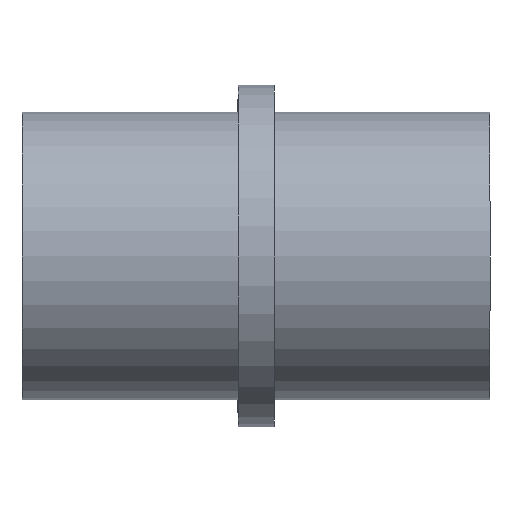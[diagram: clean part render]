
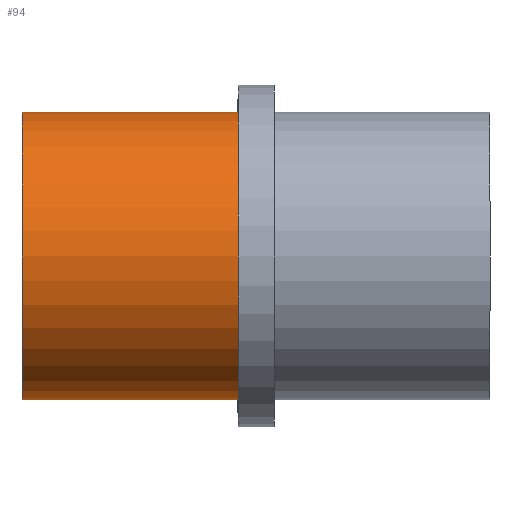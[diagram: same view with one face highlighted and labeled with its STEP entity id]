
A CAD part, front view. The second image highlights one B-rep face of the part: STEP entity #94.
In plain terms, the highlighted cylindrical face has radius 16 mm (diameter 32 mm), a full revolution.
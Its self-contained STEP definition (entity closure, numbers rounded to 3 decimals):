
#18=FACE_BOUND($,#35,.T.);
#28=FACE_OUTER_BOUND($,#34,.T.);
#34=EDGE_LOOP($,(#74));
#35=EDGE_LOOP($,(#75));
#50=CIRCLE($,#106,16.);
#51=CIRCLE($,#107,16.);
#58=VERTEX_POINT($,#157);
#59=VERTEX_POINT($,#159);
#66=EDGE_CURVE($,#58,#58,#50,.T.);
#67=EDGE_CURVE($,#59,#59,#51,.T.);
#74=ORIENTED_EDGE($,*,*,#66,.F.);
#75=ORIENTED_EDGE($,*,*,#67,.T.);
#90=CYLINDRICAL_SURFACE($,#105,16.);
#94=ADVANCED_FACE($,(#28,#18),#90,.T.);
#105=AXIS2_PLACEMENT_3D($,#156,#123,#124);
#106=AXIS2_PLACEMENT_3D($,#158,#125,#126);
#107=AXIS2_PLACEMENT_3D($,#160,#127,#128);
#123=DIRECTION('center_axis',(1.,0.,0.));
#124=DIRECTION('ref_axis',(0.,1.,0.));
#125=DIRECTION('center_axis',(1.,0.,0.));
#126=DIRECTION('ref_axis',(0.,1.,0.));
#127=DIRECTION('center_axis',(1.,0.,0.));
#128=DIRECTION('ref_axis',(0.,1.,0.));
#156=CARTESIAN_POINT('Origin',(12.,0.,0.));
#157=CARTESIAN_POINT('',(24.,16.,0.));
#158=CARTESIAN_POINT('Origin',(24.,0.,0.));
#159=CARTESIAN_POINT('',(0.,16.,0.));
#160=CARTESIAN_POINT('Origin',(0.,0.,
0.));
